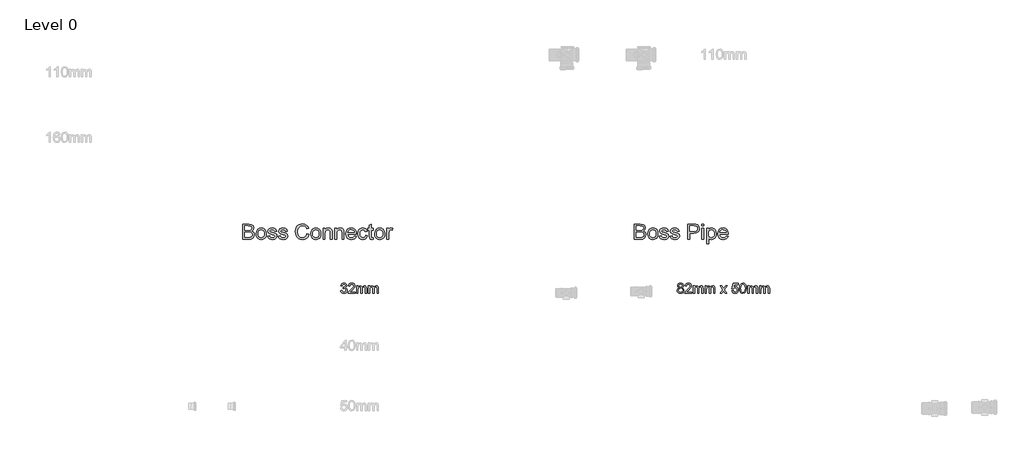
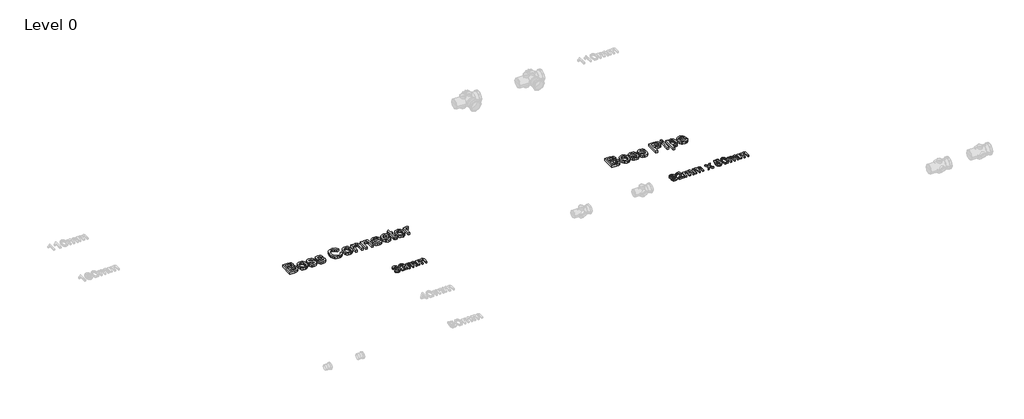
# One storey, part 8 of 23: 4 proxies.
"""IFC4 building model written with IfcOpenShell, lengths in millimetres."""

from ifc_helpers import new_model, si_unit, origin, origin_with_axes, place, context, project, spatial, polyline, outline, extrude, element, save

model = new_model("IFC4")

# Units and contexts
model_context = context("Model", 3, world=origin())
ifc_project = project(units=[si_unit("LENGTHUNIT", "METRE", prefix="MILLI")], contexts=[model_context])

# Site, building, storey
site = spatial("IfcSite", under=ifc_project)
building = spatial("IfcBuilding", under=site)
storey = spatial("IfcBuildingStorey", under=building, Name="Level 0", Elevation=0.0)

# Proxies
placement = place(None, origin())
element("IfcBuildingElementProxy", 1, Name="100mm Arial", ObjectType="100mm Arial", at=placement, inside=storey, context=model_context, shape_type="SweptSolid", body=[
    extrude(outline(polyline([(-20800.1908572, 6012.804251), (-20787.8831649, 6014.3427125), (-20781.0922995, 6001.3859817), (-20768.3879726, 5997.4196356), (-20759.9504726, 5998.7838183), (-20753.4360495, 6002.8763663), (-20747.8831649, 6016.3859817), (-20753.3879726, 6029.1143471), (-20767.3783572, 6034.1504048), (-20776.0081649, 6032.804251), (-20774.6379726, 6045.1119433), (-20772.6668188, 6044.9677125), (-20758.7004726, 6048.5013663), (-20754.0490303, 6052.9845394), (-20752.4985495, 6059.366751), (-20756.9937418, 6068.9941548), (-20768.5802803, 6072.804251), (-20780.3110495, 6068.9580971), (-20786.3447034, 6057.4196356), (-20798.6523957, 6058.9580971), (-20795.0285976, 6070.0097798), (-20788.5802803, 6078.2609817), (-20779.7581649, 6083.3992029), (-20769.0129726, 6085.1119433), (-20754.1692226, 6081.7345394), (-20743.7846072, 6072.5037702), (-20740.1908572, 6060.0879048), (-20743.6043188, 6048.741751), (-20753.7004726, 6040.5927125), (-20740.2870111, 6032.179251), (-20735.5754726, 6016.1696356), (-20737.9312418, 6004.1744433), (-20744.9985495, 5994.1504048), (-20755.6656168, 5987.3715587), (-20768.8206649, 5985.1119433), (-20780.7197034, 5987.0410298), (-20790.4072034, 5992.8282894), (-20797.1439822, 6001.6804529), (-20800.1908572, 6012.804251)])), origin_with_axes(), (0.0, 0.0, 1.0), 15.0),
    extrude(outline(polyline([(-20661.7293188, 5998.9580971), (-20661.7293188, 5986.6504048), (-20726.3447034, 5986.6504048), (-20725.022588, 5995.1359817), (-20717.5466264, 6008.2008856), (-20702.1379726, 6022.4677125), (-20680.8879726, 6042.9725202), (-20675.5754726, 6056.9148279), (-20680.5874918, 6068.2008856), (-20693.6764341, 6072.804251), (-20707.3182611, 6068.3090587), (-20712.4985495, 6055.881174), (-20724.8062418, 6057.4196356), (-20721.8224678, 6069.3246837), (-20715.3711457, 6078.0205971), (-20705.7888139, 6083.3391067), (-20693.4120111, 6085.1119433), (-20680.9450639, 6083.1407894), (-20671.3807611, 6077.2273279), (-20665.2960255, 6068.3931933), (-20663.2677803, 6057.6600202), (-20665.4552803, 6045.9893471), (-20672.7269149, 6033.9220394), (-20690.3591264, 6017.0590587), (-20704.5177803, 6005.2201163), (-20710.0706649, 5998.9580971), (-20661.7293188, 5998.9580971)])), origin_with_axes(), (0.0, 0.0, 1.0), 15.0),
    extrude(outline(polyline([(-20646.3447034, 5986.6504048), (-20646.3447034, 6058.9580971), (-20634.0370111, 6058.9580971), (-20634.0370111, 6047.0590587), (-20625.5754726, 6056.8066548), (-20613.5322034, 6060.4965587), (-20601.2004726, 6056.7345394), (-20594.4216264, 6046.193674), (-20584.8182611, 6056.9208375), (-20572.6908572, 6060.4965587), (-20563.4390543, 6059.0091788), (-20556.5971072, 6054.5470394), (-20552.3693428, 6046.9899481), (-20550.960088, 6036.2177125), (-20550.960088, 5986.6504048), (-20563.2677803, 5986.6504048), (-20563.2677803, 6030.929251), (-20564.4096072, 6041.2056933), (-20568.5442226, 6046.2657894), (-20575.5754726, 6048.1888663), (-20587.678838, 6043.2609817), (-20592.4985495, 6027.4677125), (-20592.4985495, 5986.6504048), (-20604.8062418, 5986.6504048), (-20604.8062418, 6032.2994433), (-20607.6547995, 6044.2225202), (-20616.9937418, 6048.1888663), (-20626.1043188, 6045.5446356), (-20632.1620111, 6037.804251), (-20634.0370111, 6023.116751), (-20634.0370111, 5986.6504048), (-20646.3447034, 5986.6504048)])), origin_with_axes(), (0.0, 0.0, 1.0), 15.0),
    extrude(outline(polyline([(-20532.4985495, 5986.6504048), (-20532.4985495, 6058.9580971), (-20520.1908572, 6058.9580971), (-20520.1908572, 6047.0590587), (-20511.7293188, 6056.8066548), (-20499.6860495, 6060.4965587), (-20487.3543188, 6056.7345394), (-20480.5754726, 6046.193674), (-20470.9721072, 6056.9208375), (-20458.8447034, 6060.4965587), (-20449.5929005, 6059.0091788), (-20442.7509534, 6054.5470394), (-20438.5231889, 6046.9899481), (-20437.1139341, 6036.2177125), (-20437.1139341, 5986.6504048), (-20449.4216264, 5986.6504048), (-20449.4216264, 6030.929251), (-20450.5634534, 6041.2056933), (-20454.6980688, 6046.2657894), (-20461.7293188, 6048.1888663), (-20473.8326841, 6043.2609817), (-20478.6523957, 6027.4677125), (-20478.6523957, 5986.6504048), (-20490.960088, 5986.6504048), (-20490.960088, 6032.2994433), (-20493.8086457, 6044.2225202), (-20503.147588, 6048.1888663), (-20512.2581649, 6045.5446356), (-20518.3158572, 6037.804251), (-20520.1908572, 6023.116751), (-20520.1908572, 5986.6504048), (-20532.4985495, 5986.6504048)])), origin_with_axes(), (0.0, 0.0, 1.0), 15.0),
])
element("IfcBuildingElementProxy", 2, Name="100mm Arial", ObjectType="100mm Arial", at=placement, inside=storey, context=model_context, shape_type="SweptSolid", body=[
    extrude(outline(polyline([(-17544.5658572, 6040.881174), (-17555.7797995, 6048.5254048), (-17559.4216264, 6060.4244433), (-17557.4384534, 6070.0458375), (-17551.4889341, 6077.9965587), (-17542.2401361, 6083.3330971), (-17530.3591264, 6085.1119433), (-17518.4060014, 6083.2910298), (-17509.0370111, 6077.8282894), (-17502.9793188, 6069.7513663), (-17500.960088, 6060.0879048), (-17504.553838, 6048.4893471), (-17515.4552803, 6040.881174), (-17502.366338, 6031.2297317), (-17497.8831649, 6015.304251), (-17500.1067226, 6003.537424), (-17506.7773957, 5993.8138663), (-17517.0778764, 5987.287424), (-17530.1908572, 5985.1119433), (-17543.303838, 5987.2964385), (-17553.6043188, 5993.849924), (-17560.2749918, 6003.6666308), (-17562.4985495, 6015.6407894), (-17557.835088, 6031.9388663), (-17544.5658572, 6040.881174)]), holes=[polyline([(-17547.1139341, 6060.0638663), (-17542.7509534, 6050.4004048), (-17530.0466264, 6046.6504048), (-17517.5947034, 6050.3763663), (-17513.2677803, 6059.5109817), (-17517.7389341, 6068.9701163), (-17530.1908572, 6072.804251), (-17542.678838, 6069.054251), (-17547.1139341, 6060.0638663)]), polyline([(-17550.1908572, 6016.0734817), (-17548.1355688, 6006.8066548), (-17540.8639341, 5999.8715587), (-17530.0947034, 5997.4196356), (-17515.4312418, 6002.5758856), (-17510.1908572, 6015.6888663), (-17515.5995111, 6029.054251), (-17522.0297995, 6033.0205971), (-17530.5033572, 6034.3427125), (-17544.9865303, 6029.1263663), (-17550.1908572, 6016.0734817)])]), origin_with_axes(), (0.0, 0.0, 1.0), 15.0),
    extrude(outline(polyline([(-17424.0370111, 5998.9580971), (-17424.0370111, 5986.6504048), (-17488.6523957, 5986.6504048), (-17487.3302803, 5995.1359817), (-17479.8543188, 6008.2008856), (-17464.4456649, 6022.4677125), (-17443.1956649, 6042.9725202), (-17437.8831649, 6056.9148279), (-17442.8951841, 6068.2008856), (-17455.9841264, 6072.804251), (-17469.6259534, 6068.3090587), (-17474.8062418, 6055.881174), (-17487.1139341, 6057.4196356), (-17484.1301601, 6069.3246837), (-17477.678838, 6078.0205971), (-17468.0965063, 6083.3391067), (-17455.7197034, 6085.1119433), (-17443.2527563, 6083.1407894), (-17433.6884534, 6077.2273279), (-17427.6037178, 6068.3931933), (-17425.5754726, 6057.6600202), (-17427.7629726, 6045.9893471), (-17435.0346072, 6033.9220394), (-17452.6668188, 6017.0590587), (-17466.8254726, 6005.2201163), (-17472.3783572, 5998.9580971), (-17424.0370111, 5998.9580971)])), origin_with_axes(), (0.0, 0.0, 1.0), 15.0),
    extrude(outline(polyline([(-17408.6523957, 5986.6504048), (-17408.6523957, 6058.9580971), (-17396.3447034, 6058.9580971), (-17396.3447034, 6047.0590587), (-17387.8831649, 6056.8066548), (-17375.8398957, 6060.4965587), (-17363.5081649, 6056.7345394), (-17356.7293188, 6046.193674), (-17347.1259534, 6056.9208375), (-17334.9985495, 6060.4965587), (-17325.7467466, 6059.0091788), (-17318.9047995, 6054.5470394), (-17314.6770351, 6046.9899481), (-17313.2677803, 6036.2177125), (-17313.2677803, 5986.6504048), (-17325.5754726, 5986.6504048), (-17325.5754726, 6030.929251), (-17326.7172995, 6041.2056933), (-17330.8519149, 6046.2657894), (-17337.8831649, 6048.1888663), (-17349.9865303, 6043.2609817), (-17354.8062418, 6027.4677125), (-17354.8062418, 5986.6504048), (-17367.1139341, 5986.6504048), (-17367.1139341, 6032.2994433), (-17369.9624918, 6044.2225202), (-17379.3014341, 6048.1888663), (-17388.4120111, 6045.5446356), (-17394.4697034, 6037.804251), (-17396.3447034, 6023.116751), (-17396.3447034, 5986.6504048), (-17408.6523957, 5986.6504048)])), origin_with_axes(), (0.0, 0.0, 1.0), 15.0),
    extrude(outline(polyline([(-17294.8062418, 5986.6504048), (-17294.8062418, 6058.9580971), (-17282.4985495, 6058.9580971), (-17282.4985495, 6047.0590587), (-17274.0370111, 6056.8066548), (-17261.9937418, 6060.4965587), (-17249.6620111, 6056.7345394), (-17242.8831649, 6046.193674), (-17233.2797995, 6056.9208375), (-17221.1523957, 6060.4965587), (-17211.9005928, 6059.0091788), (-17205.0586457, 6054.5470394), (-17200.8308813, 6046.9899481), (-17199.4216264, 6036.2177125), (-17199.4216264, 5986.6504048), (-17211.7293188, 5986.6504048), (-17211.7293188, 6030.929251), (-17212.8711457, 6041.2056933), (-17217.0057611, 6046.2657894), (-17224.0370111, 6048.1888663), (-17236.1403764, 6043.2609817), (-17240.960088, 6027.4677125), (-17240.960088, 5986.6504048), (-17253.2677803, 5986.6504048), (-17253.2677803, 6032.2994433), (-17256.116338, 6044.2225202), (-17265.4552803, 6048.1888663), (-17274.5658572, 6045.5446356), (-17280.6235495, 6037.804251), (-17282.4985495, 6023.116751), (-17282.4985495, 5986.6504048), (-17294.8062418, 5986.6504048)])), origin_with_axes(), (0.0, 0.0, 1.0), 15.0),
    extrude(outline(polyline([(-17150.1908572, 5986.6504048), (-17123.8927803, 6022.9965587), (-17148.6523957, 6058.9580971), (-17133.8447034, 6058.9580971), (-17121.897588, 6041.6504048), (-17116.3206649, 6033.4773279), (-17111.4889341, 6040.1600202), (-17097.8831649, 6058.9580971), (-17083.0754726, 6058.9580971), (-17109.085088, 6022.9965587), (-17084.0370111, 5986.6504048), (-17098.8447034, 5986.6504048), (-17113.9168188, 6008.5013663), (-17116.6812418, 6012.491751), (-17135.3831649, 5986.6504048), (-17150.1908572, 5986.6504048)])), origin_with_axes(), (0.0, 0.0, 1.0), 15.0),
    extrude(outline(polyline([(-17037.8831649, 6012.804251), (-17025.5754726, 6014.3427125), (-17019.3735495, 6001.662424), (-17006.5129726, 5997.4196356), (-16997.6908572, 5998.8949962), (-16991.0802803, 6003.3210779), (-16986.9516745, 6010.1870635), (-16985.5754726, 6018.9821356), (-16990.7317226, 6033.5975202), (-16997.2070832, 6037.6179529), (-17006.3206649, 6038.9580971), (-17017.1259534, 6036.818674), (-17024.0370111, 6031.2657894), (-17036.3447034, 6032.804251), (-17025.5754726, 6083.5734817), (-16977.8831649, 6083.5734817), (-16977.8831649, 6071.2657894), (-17015.6235495, 6071.2657894), (-17020.8879726, 6044.1504048), (-17012.0959053, 6049.4869433), (-17002.8831649, 6051.2657894), (-16991.3837659, 6049.0602606), (-16981.8374918, 6042.443674), (-16975.4102082, 6032.3595394), (-16973.2677803, 6019.7513663), (-16975.1968668, 6007.443674), (-16980.9841264, 5996.9148279), (-16992.0658572, 5988.0626644), (-17006.5610495, 5985.1119433), (-17018.6493909, 5987.0079769), (-17028.2797995, 5992.6960779), (-17034.881362, 6001.5151885), (-17037.8831649, 6012.804251)])), origin_with_axes(), (0.0, 0.0, 1.0), 15.0),
    extrude(outline(polyline([(-16962.4985495, 6035.0879048), (-16958.8807611, 6063.4172317), (-16948.1355688, 6079.7513663), (-16930.1908572, 6085.1119433), (-16915.8158572, 6081.9388663), (-16905.8879726, 6072.7922317), (-16900.1187418, 6058.224924), (-16897.8831649, 6035.0879048), (-16901.4648957, 6006.8787702), (-16912.1740303, 5990.5085779), (-16930.1908572, 5985.1119433), (-16942.9793188, 5987.4556933), (-16952.6908572, 5994.4869433), (-16960.0466264, 6011.1395875), (-16962.4985495, 6035.0879048)]), holes=[polyline([(-16950.1908572, 6035.1119433), (-16948.7485495, 6015.7519673), (-16944.4216264, 6004.5470394), (-16937.9793188, 5999.2014865), (-16930.1908572, 5997.4196356), (-16922.4023957, 5999.2074962), (-16915.960088, 6004.5710779), (-16911.6331649, 6015.7820154), (-16910.1908572, 6035.1119433), (-16911.585088, 6054.0362221), (-16915.7677803, 6065.3282894), (-16922.1980688, 6070.9352606), (-16930.335088, 6072.804251), (-16938.0394149, 6071.1576163), (-16944.2293188, 6066.2177125), (-16948.7004726, 6054.2225202), (-16950.1908572, 6035.1119433)])]), origin_with_axes(), (0.0, 0.0, 1.0), 15.0),
    extrude(outline(polyline([(-16884.0370111, 5986.6504048), (-16884.0370111, 6058.9580971), (-16871.7293188, 6058.9580971), (-16871.7293188, 6047.0590587), (-16863.2677803, 6056.8066548), (-16851.2245111, 6060.4965587), (-16838.8927803, 6056.7345394), (-16832.1139341, 6046.193674), (-16822.5105688, 6056.9208375), (-16810.3831649, 6060.4965587), (-16801.131362, 6059.0091788), (-16794.2894149, 6054.5470394), (-16790.0616505, 6046.9899481), (-16788.6523957, 6036.2177125), (-16788.6523957, 5986.6504048), (-16800.960088, 5986.6504048), (-16800.960088, 6030.929251), (-16802.1019149, 6041.2056933), (-16806.2365303, 6046.2657894), (-16813.2677803, 6048.1888663), (-16825.3711457, 6043.2609817), (-16830.1908572, 6027.4677125), (-16830.1908572, 5986.6504048), (-16842.4985495, 5986.6504048), (-16842.4985495, 6032.2994433), (-16845.3471072, 6044.2225202), (-16854.6860495, 6048.1888663), (-16863.7966264, 6045.5446356), (-16869.8543188, 6037.804251), (-16871.7293188, 6023.116751), (-16871.7293188, 5986.6504048), (-16884.0370111, 5986.6504048)])), origin_with_axes(), (0.0, 0.0, 1.0), 15.0),
    extrude(outline(polyline([(-16770.1908572, 5986.6504048), (-16770.1908572, 6058.9580971), (-16757.8831649, 6058.9580971), (-16757.8831649, 6047.0590587), (-16749.4216264, 6056.8066548), (-16737.3783572, 6060.4965587), (-16725.0466264, 6056.7345394), (-16718.2677803, 6046.193674), (-16708.6644149, 6056.9208375), (-16696.5370111, 6060.4965587), (-16687.2852082, 6059.0091788), (-16680.4432611, 6054.5470394), (-16676.2154966, 6046.9899481), (-16674.8062418, 6036.2177125), (-16674.8062418, 5986.6504048), (-16687.1139341, 5986.6504048), (-16687.1139341, 6030.929251), (-16688.2557611, 6041.2056933), (-16692.3903764, 6046.2657894), (-16699.4216264, 6048.1888663), (-16711.5249918, 6043.2609817), (-16716.3447034, 6027.4677125), (-16716.3447034, 5986.6504048), (-16728.6523957, 5986.6504048), (-16728.6523957, 6032.2994433), (-16731.5009534, 6044.2225202), (-16740.8398957, 6048.1888663), (-16749.9504726, 6045.5446356), (-16756.0081649, 6037.804251), (-16757.8831649, 6023.116751), (-16757.8831649, 5986.6504048), (-16770.1908572, 5986.6504048)])), origin_with_axes(), (0.0, 0.0, 1.0), 15.0),
])
element("IfcBuildingElementProxy", 3, Name="150mm Arial", ObjectType="150mm Arial", at=placement, inside=storey, context=model_context, shape_type="SweptSolid", body=[
    extrude(outline(polyline([(-21742.1433743, 6505.2145219), (-21742.1433743, 6652.9068296), (-21685.7852012, 6652.9068296), (-21658.1830377, 6648.5618777), (-21648.9071964, 6643.049558), (-21641.8849608, 6635.2025027), (-21635.9895281, 6616.3082719), (-21640.9474608, 6599.0546661), (-21655.929432, 6585.9837527), (-21645.468194, 6580.5210123), (-21637.7383262, 6572.2097142), (-21632.9651892, 6561.5997383), (-21631.3741435, 6549.2409642), (-21635.7190954, 6529.3912046), (-21646.4823166, 6515.2565892), (-21662.5460185, 6507.7565892), (-21686.2178935, 6505.2145219), (-21742.1433743, 6505.2145219)]), holes=[polyline([(-21723.6818358, 6523.6760604), (-21685.8212589, 6523.6760604), (-21672.1193358, 6524.3972142), (-21660.5267877, 6528.4176469), (-21652.8464993, 6536.6207719), (-21649.835682, 6549.0606758), (-21653.3693358, 6563.4116373), (-21664.8176531, 6571.9753392), (-21687.6241435, 6574.4452911), (-21723.6818358, 6574.4452911), (-21723.6818358, 6523.6760604)]), polyline([(-21723.6818358, 6592.9068296), (-21689.9678935, 6592.9068296), (-21670.2803935, 6594.4933681), (-21658.4354416, 6601.3263008), (-21654.4510666, 6613.3515411), (-21658.1650089, 6625.3948104), (-21668.8020281, 6632.5162046), (-21692.5279897, 6634.4452911), (-21723.6818358, 6634.4452911), (-21723.6818358, 6592.9068296)])]), origin_with_axes(), (0.0, 0.0, 1.0), 25.0),
    extrude(outline(polyline([(-21612.912605, 6559.4452911), (-21608.9192156, 6585.5961325), (-21596.9390473, 6603.9765411), (-21582.1373647, 6612.9819498), (-21564.4150089, 6615.9837527), (-21545.0204776, 6612.3284041), (-21529.5291916, 6601.3623585), (-21519.374444, 6583.9510003), (-21515.9895281, 6560.9597142), (-21517.4859223, 6542.3088729), (-21521.975105, 6528.1111565), (-21529.3263671, 6517.4786445), (-21539.4089993, 6509.5234161), (-21551.3846603, 6504.5609762), (-21564.4150089, 6502.9068296), (-21584.0439151, 6506.5486565), (-21599.5171723, 6517.4741373), (-21609.5637469, 6535.2505796), (-21612.912605, 6559.4452911)]), holes=[polyline([(-21594.4510666, 6559.4813488), (-21592.3146483, 6542.7731157), (-21585.9053935, 6530.86957), (-21576.2599608, 6523.7436686), (-21564.4150089, 6521.3683681), (-21552.6241435, 6523.7571902), (-21542.9967397, 6530.9236565), (-21536.5874848, 6542.9849546), (-21534.4510666, 6560.0582719), (-21536.6010065, 6576.2797262), (-21543.0508262, 6588.0210123), (-21552.6917517, 6595.1469137), (-21564.4150089, 6597.5222142), (-21576.2599608, 6595.1559282), (-21585.9053935, 6588.05707), (-21592.3146483, 6576.1805676), (-21594.4510666, 6559.4813488)])]), origin_with_axes(), (0.0, 0.0, 1.0), 25.0),
    extrude(outline(polyline([(-21502.1433743, 6537.5222142), (-21483.6818358, 6539.8299065), (-21480.7701772, 6531.9332719), (-21475.1361627, 6526.1279835), (-21455.5568358, 6521.3683681), (-21436.7347204, 6525.7313488), (-21430.6049127, 6535.9717335), (-21436.7707781, 6544.2650027), (-21455.773182, 6549.5294258), (-21483.5736627, 6558.5618777), (-21495.7070762, 6569.1087527), (-21499.835682, 6584.0005796), (-21496.5183743, 6597.7565892), (-21487.4678935, 6608.2674065), (-21475.7311147, 6613.7301469), (-21459.8477012, 6615.9837527), (-21437.3837589, 6612.3599546), (-21423.1049127, 6602.5522623), (-21416.7587589, 6585.9837527), (-21435.2202973, 6583.6760604), (-21442.1614031, 6593.8623585), (-21458.4053935, 6597.5222142), (-21476.0736627, 6594.0246181), (-21481.3741435, 6585.8755796), (-21479.1746243, 6580.5029835), (-21472.287605, 6576.4284642), (-21456.3861627, 6572.4981758), (-21429.288807, 6563.8082719), (-21416.7046723, 6553.9645219), (-21412.1433743, 6537.9188488), (-21417.4979416, 6520.2505796), (-21432.9486627, 6507.43207), (-21455.8092397, 6502.9068296), (-21474.4240233, 6505.08832), (-21488.0087589, 6511.6327911), (-21497.0772685, 6522.4681277), (-21502.1433743, 6537.5222142)])), origin_with_axes(), (0.0, 0.0, 1.0), 25.0),
    extrude(outline(polyline([(-21398.2972204, 6537.5222142), (-21379.835682, 6539.8299065), (-21376.9240233, 6531.9332719), (-21371.2900089, 6526.1279835), (-21351.710682, 6521.3683681), (-21332.8885666, 6525.7313488), (-21326.7587589, 6535.9717335), (-21332.9246243, 6544.2650027), (-21351.9270281, 6549.5294258), (-21379.7275089, 6558.5618777), (-21391.8609223, 6569.1087527), (-21395.9895281, 6584.0005796), (-21392.6722204, 6597.7565892), (-21383.6217397, 6608.2674065), (-21371.8849608, 6613.7301469), (-21356.0015473, 6615.9837527), (-21333.537605, 6612.3599546), (-21319.2587589, 6602.5522623), (-21312.912605, 6585.9837527), (-21331.3741435, 6583.6760604), (-21338.3152493, 6593.8623585), (-21354.5592397, 6597.5222142), (-21372.2275089, 6594.0246181), (-21377.5279897, 6585.8755796), (-21375.3284704, 6580.5029835), (-21368.4414512, 6576.4284642), (-21352.5400089, 6572.4981758), (-21325.4426531, 6563.8082719), (-21312.8585185, 6553.9645219), (-21308.2972204, 6537.9188488), (-21313.6517877, 6520.2505796), (-21329.1025089, 6507.43207), (-21351.9630858, 6502.9068296), (-21370.5778695, 6505.08832), (-21384.162605, 6511.6327911), (-21393.2311147, 6522.4681277), (-21398.2972204, 6537.5222142)])), origin_with_axes(), (0.0, 0.0, 1.0), 25.0),
    extrude(outline(polyline([(-21123.6818358, 6557.7145219), (-21105.2202973, 6552.9549065), (-21113.7389272, 6531.4419859), (-21127.1073166, 6515.7253392), (-21144.6674127, 6506.111457), (-21165.7611627, 6502.9068296), (-21187.1749247, 6505.3317094), (-21204.1806339, 6512.6063488), (-21217.2154897, 6524.478344), (-21226.7166916, 6540.6952911), (-21232.5174728, 6559.760796), (-21234.4510666, 6580.1784642), (-21232.265069, 6601.713921), (-21225.7070762, 6620.3106758), (-21215.1196363, 6635.3782839), (-21200.8452973, 6646.3263008), (-21183.9162108, 6652.9924666), (-21165.3645281, 6655.2145219), (-21145.1226411, 6652.338921), (-21128.3873647, 6643.7121181), (-21115.6815353, 6629.8659642), (-21107.5279897, 6611.3323104), (-21125.9895281, 6606.9332719), (-21132.3897685, 6620.3963128), (-21141.1337589, 6629.6315892), (-21152.3296723, 6634.9726349), (-21166.085682, 6636.7529835), (-21181.9420522, 6634.7788248), (-21194.9678935, 6628.8563488), (-21204.8522084, 6619.6075508), (-21211.2839993, 6607.6544258), (-21215.9895281, 6580.2145219), (-21210.4186147, 6548.4116373), (-21203.2972204, 6536.5351349), (-21193.0748647, 6528.0931277), (-21180.8197565, 6523.049558), (-21167.600105, 6521.3683681), (-21152.1899488, 6523.6580315), (-21139.3489031, 6530.5270219), (-21129.6538911, 6541.9032238), (-21123.6818358, 6557.7145219)])), origin_with_axes(), (0.0, 0.0, 1.0), 25.0),
    extrude(outline(polyline([(-21086.7587589, 6559.4452911), (-21082.7653695, 6585.5961325), (-21070.7852012, 6603.9765411), (-21055.9835185, 6612.9819498), (-21038.2611627, 6615.9837527), (-21018.8666315, 6612.3284041), (-21003.3753454, 6601.3623585), (-20993.2205978, 6583.9510003), (-20989.835682, 6560.9597142), (-20991.3320762, 6542.3088729), (-20995.8212589, 6528.1111565), (-21003.1725209, 6517.4786445), (-21013.2551531, 6509.5234161), (-21025.2308142, 6504.5609762), (-21038.2611627, 6502.9068296), (-21057.890069, 6506.5486565), (-21073.3633262, 6517.4741373), (-21083.4099007, 6535.2505796), (-21086.7587589, 6559.4452911)]), holes=[polyline([(-21068.2972204, 6559.4813488), (-21066.1608022, 6542.7731157), (-21059.7515473, 6530.86957), (-21050.1061147, 6523.7436686), (-21038.2611627, 6521.3683681), (-21026.4702973, 6523.7571902), (-21016.8428935, 6530.9236565), (-21010.4336387, 6542.9849546), (-21008.2972204, 6560.0582719), (-21010.4471603, 6576.2797262), (-21016.89698, 6588.0210123), (-21026.5379055, 6595.1469137), (-21038.2611627, 6597.5222142), (-21050.1061147, 6595.1559282), (-21059.7515473, 6588.05707), (-21066.1608022, 6576.1805676), (-21068.2972204, 6559.4813488)])]), origin_with_axes(), (0.0, 0.0, 1.0), 25.0),
    extrude(outline(polyline([(-20969.0664512, 6505.2145219), (-20969.0664512, 6613.6760604), (-20950.6049127, 6613.6760604), (-20950.6049127, 6598.5318296), (-20936.4883262, 6611.6207719), (-20917.2154897, 6615.9837527), (-20899.7815954, 6612.4681277), (-20887.882557, 6603.2373585), (-20882.3477012, 6589.6616373), (-20881.3741435, 6571.8130796), (-20881.3741435, 6505.2145219), (-20899.835682, 6505.2145219), (-20899.835682, 6569.3250988), (-20901.9630858, 6585.6592335), (-20909.4811147, 6594.2950508), (-20922.1553935, 6597.5222142), (-20932.968194, 6595.7103152), (-20942.1854416, 6590.2746181), (-20948.5000449, 6579.7728152), (-20950.6049127, 6562.7625988), (-20950.6049127, 6505.2145219), (-20969.0664512, 6505.2145219)])), origin_with_axes(), (0.0, 0.0, 1.0), 25.0),
    extrude(outline(polyline([(-20855.9895281, 6505.2145219), (-20855.9895281, 6613.6760604), (-20837.5279897, 6613.6760604), (-20837.5279897, 6598.5318296), (-20823.4114031, 6611.6207719), (-20804.1385666, 6615.9837527), (-20786.7046723, 6612.4681277), (-20774.8056339, 6603.2373585), (-20769.2707781, 6589.6616373), (-20768.2972204, 6571.8130796), (-20768.2972204, 6505.2145219), (-20786.7587589, 6505.2145219), (-20786.7587589, 6569.3250988), (-20788.8861627, 6585.6592335), (-20796.4041916, 6594.2950508), (-20809.0784704, 6597.5222142), (-20819.8912709, 6595.7103152), (-20829.1085185, 6590.2746181), (-20835.4231219, 6579.7728152), (-20837.5279897, 6562.7625988), (-20837.5279897, 6505.2145219), (-20855.9895281, 6505.2145219)])), origin_with_axes(), (0.0, 0.0, 1.0), 25.0),
    extrude(outline(polyline([(-20666.975105, 6537.5222142), (-20648.8741435, 6535.2145219), (-20655.3960786, 6521.5756998), (-20665.80323, 6511.3803873), (-20679.8612228, 6505.025219), (-20697.335682, 6502.9068296), (-20718.9973406, 6506.5621782), (-20735.6650089, 6517.5282238), (-20746.2930137, 6535.0928272), (-20749.835682, 6558.5438488), (-20746.256956, 6582.7836325), (-20735.5207781, 6600.9116373), (-20719.0784704, 6612.2157238), (-20698.381355, 6615.9837527), (-20678.3287709, 6612.2247383), (-20662.3056339, 6600.947695), (-20651.7993238, 6582.8557479), (-20648.2972204, 6558.6520219), (-20648.4053935, 6553.6760604), (-20731.3741435, 6553.6760604), (-20728.1785305, 6539.8569498), (-20720.7551531, 6529.697695), (-20710.0415113, 6523.4506998), (-20696.975105, 6521.3683681), (-20678.8741435, 6525.2265411), (-20666.975105, 6537.5222142)]), holes=[polyline([(-20731.3741435, 6572.1375988), (-20666.7587589, 6572.1375988), (-20669.2557541, 6581.8912046), (-20674.1505858, 6588.8683681), (-20684.913807, 6595.3587527), (-20698.4534704, 6597.5222142), (-20710.8978815, 6595.7959522), (-20721.1878454, 6590.6171661), (-20728.3407901, 6582.5447503), (-20731.3741435, 6572.1375988)])]), origin_with_axes(), (0.0, 0.0, 1.0), 25.0),
    extrude(outline(polyline([(-20560.6049127, 6544.4452911), (-20542.1433743, 6542.1375988), (-20547.2906098, 6525.7178272), (-20556.9630858, 6513.3094738), (-20570.2503454, 6505.5074907), (-20586.241932, 6502.9068296), (-20605.8798526, 6506.5351349), (-20621.2359223, 6517.4200508), (-20631.1472805, 6535.0838128), (-20634.4510666, 6559.0486565), (-20628.8080377, 6589.7157238), (-20621.6866435, 6601.2136205), (-20611.6085185, 6609.4212527), (-20599.5517276, 6614.3431277), (-20586.4943358, 6615.9837527), (-20570.8948767, 6613.7301469), (-20558.4234223, 6606.9693296), (-20549.4766074, 6596.0618777), (-20544.4510666, 6581.3683681), (-20562.912605, 6579.0606758), (-20571.476307, 6592.8888008), (-20586.350105, 6597.5222142), (-20598.280694, 6595.2415652), (-20607.7503454, 6588.3996181), (-20613.9297324, 6576.6267815), (-20615.9895281, 6559.5534642), (-20613.9748046, 6542.2502791), (-20607.9306339, 6530.4368777), (-20598.6322565, 6523.6354955), (-20586.8549127, 6521.3683681), (-20577.2951171, 6522.7836325), (-20569.4570762, 6527.0294258), (-20563.7554536, 6534.213921), (-20560.6049127, 6544.4452911)])), origin_with_axes(), (0.0, 0.0, 1.0), 25.0),
    extrude(outline(polyline([(-20486.7587589, 6520.6111565), (-20484.4510666, 6504.6736565), (-20498.2611627, 6502.9068296), (-20513.7299127, 6505.9717335), (-20521.4462589, 6514.0125988), (-20523.6818358, 6534.9621181), (-20523.6818358, 6595.2145219), (-20537.5279897, 6595.2145219), (-20537.5279897, 6613.6760604), (-20523.6818358, 6613.6760604), (-20523.6818358, 6640.0342335), (-20505.2202973, 6650.8875988), (-20505.2202973, 6613.6760604), (-20486.7587589, 6613.6760604), (-20486.7587589, 6595.2145219), (-20505.2202973, 6595.2145219), (-20505.2202973, 6535.5029835), (-20504.2467397, 6525.9837527), (-20501.0916916, 6522.6123585), (-20494.7996243, 6521.3683681), (-20486.7587589, 6520.6111565)])), origin_with_axes(), (0.0, 0.0, 1.0), 25.0),
    extrude(outline(polyline([(-20472.912605, 6559.4452911), (-20468.9192156, 6585.5961325), (-20456.9390473, 6603.9765411), (-20442.1373647, 6612.9819498), (-20424.4150089, 6615.9837527), (-20405.0204776, 6612.3284041), (-20389.5291916, 6601.3623585), (-20379.374444, 6583.9510003), (-20375.9895281, 6560.9597142), (-20377.4859223, 6542.3088729), (-20381.975105, 6528.1111565), (-20389.3263671, 6517.4786445), (-20399.4089993, 6509.5234161), (-20411.3846603, 6504.5609762), (-20424.4150089, 6502.9068296), (-20444.0439151, 6506.5486565), (-20459.5171723, 6517.4741373), (-20469.5637469, 6535.2505796), (-20472.912605, 6559.4452911)]), holes=[polyline([(-20454.4510666, 6559.4813488), (-20452.3146483, 6542.7731157), (-20445.9053935, 6530.86957), (-20436.2599608, 6523.7436686), (-20424.4150089, 6521.3683681), (-20412.6241435, 6523.7571902), (-20402.9967397, 6530.9236565), (-20396.5874848, 6542.9849546), (-20394.4510666, 6560.0582719), (-20396.6010065, 6576.2797262), (-20403.0508262, 6588.0210123), (-20412.6917517, 6595.1469137), (-20424.4150089, 6597.5222142), (-20436.2599608, 6595.1559282), (-20445.9053935, 6588.05707), (-20452.3146483, 6576.1805676), (-20454.4510666, 6559.4813488)])]), origin_with_axes(), (0.0, 0.0, 1.0), 25.0),
    extrude(outline(polyline([(-20355.2202973, 6505.2145219), (-20355.2202973, 6613.6760604), (-20339.0664512, 6613.6760604), (-20339.0664512, 6597.6303873), (-20327.600105, 6612.4140411), (-20316.0616435, 6615.9837527), (-20297.5279897, 6610.2866373), (-20303.693855, 6593.7361565), (-20316.6746243, 6597.5222142), (-20327.1133262, 6593.8803873), (-20333.7659704, 6583.7842335), (-20336.7587589, 6562.2217335), (-20336.7587589, 6505.2145219), (-20355.2202973, 6505.2145219)])), origin_with_axes(), (0.0, 0.0, 1.0), 25.0),
])
element("IfcBuildingElementProxy", 4, Name="150mm Arial", ObjectType="150mm Arial", at=placement, inside=storey, context=model_context, shape_type="SweptSolid", body=[
    extrude(outline(polyline([(-17974.4510666, 6505.2145219), (-17974.4510666, 6652.9068296), (-17918.0928935, 6652.9068296), (-17890.49073, 6648.5618777), (-17881.2148887, 6643.049558), (-17874.1926531, 6635.2025027), (-17868.2972204, 6616.3082719), (-17873.2551531, 6599.0546661), (-17888.2371243, 6585.9837527), (-17877.7758863, 6580.5210123), (-17870.0460185, 6572.2097142), (-17865.2728815, 6561.5997383), (-17863.6818358, 6549.2409642), (-17868.0267877, 6529.3912046), (-17878.7900089, 6515.2565892), (-17894.8537108, 6507.7565892), (-17918.5255858, 6505.2145219), (-17974.4510666, 6505.2145219)]), holes=[polyline([(-17955.9895281, 6523.6760604), (-17918.1289512, 6523.6760604), (-17904.4270281, 6524.3972142), (-17892.83448, 6528.4176469), (-17885.1541916, 6536.6207719), (-17882.1433743, 6549.0606758), (-17885.6770281, 6563.4116373), (-17897.1253454, 6571.9753392), (-17919.9318358, 6574.4452911), (-17955.9895281, 6574.4452911), (-17955.9895281, 6523.6760604)]), polyline([(-17955.9895281, 6592.9068296), (-17922.2755858, 6592.9068296), (-17902.5880858, 6594.4933681), (-17890.7431339, 6601.3263008), (-17886.7587589, 6613.3515411), (-17890.4727012, 6625.3948104), (-17901.1097204, 6632.5162046), (-17924.835682, 6634.4452911), (-17955.9895281, 6634.4452911), (-17955.9895281, 6592.9068296)])]), origin_with_axes(), (0.0, 0.0, 1.0), 25.0),
    extrude(outline(polyline([(-17845.2202973, 6559.4452911), (-17841.2269079, 6585.5961325), (-17829.2467397, 6603.9765411), (-17814.445057, 6612.9819498), (-17796.7227012, 6615.9837527), (-17777.3281699, 6612.3284041), (-17761.8368839, 6601.3623585), (-17751.6821363, 6583.9510003), (-17748.2972204, 6560.9597142), (-17749.7936147, 6542.3088729), (-17754.2827973, 6528.1111565), (-17761.6340594, 6517.4786445), (-17771.7166916, 6509.5234161), (-17783.6923526, 6504.5609762), (-17796.7227012, 6502.9068296), (-17816.3516074, 6506.5486565), (-17831.8248647, 6517.4741373), (-17841.8714392, 6535.2505796), (-17845.2202973, 6559.4452911)]), holes=[polyline([(-17826.7587589, 6559.4813488), (-17824.6223406, 6542.7731157), (-17818.2130858, 6530.86957), (-17808.5676531, 6523.7436686), (-17796.7227012, 6521.3683681), (-17784.9318358, 6523.7571902), (-17775.304432, 6530.9236565), (-17768.8951772, 6542.9849546), (-17766.7587589, 6560.0582719), (-17768.9086988, 6576.2797262), (-17775.3585185, 6588.0210123), (-17784.999444, 6595.1469137), (-17796.7227012, 6597.5222142), (-17808.5676531, 6595.1559282), (-17818.2130858, 6588.05707), (-17824.6223406, 6576.1805676), (-17826.7587589, 6559.4813488)])]), origin_with_axes(), (0.0, 0.0, 1.0), 25.0),
    extrude(outline(polyline([(-17734.4510666, 6537.5222142), (-17715.9895281, 6539.8299065), (-17713.0778695, 6531.9332719), (-17707.443855, 6526.1279835), (-17687.8645281, 6521.3683681), (-17669.0424127, 6525.7313488), (-17662.912605, 6535.9717335), (-17669.0784704, 6544.2650027), (-17688.0808743, 6549.5294258), (-17715.881355, 6558.5618777), (-17728.0147685, 6569.1087527), (-17732.1433743, 6584.0005796), (-17728.8260666, 6597.7565892), (-17719.7755858, 6608.2674065), (-17708.038807, 6613.7301469), (-17692.1553935, 6615.9837527), (-17669.6914512, 6612.3599546), (-17655.412605, 6602.5522623), (-17649.0664512, 6585.9837527), (-17667.5279897, 6583.6760604), (-17674.4690954, 6593.8623585), (-17690.7130858, 6597.5222142), (-17708.381355, 6594.0246181), (-17713.6818358, 6585.8755796), (-17711.4823166, 6580.5029835), (-17704.5952973, 6576.4284642), (-17688.693855, 6572.4981758), (-17661.5964993, 6563.8082719), (-17649.0123647, 6553.9645219), (-17644.4510666, 6537.9188488), (-17649.8056339, 6520.2505796), (-17665.256355, 6507.43207), (-17688.116932, 6502.9068296), (-17706.7317156, 6505.08832), (-17720.3164512, 6511.6327911), (-17729.3849608, 6522.4681277), (-17734.4510666, 6537.5222142)])), origin_with_axes(), (0.0, 0.0, 1.0), 25.0),
    extrude(outline(polyline([(-17630.6049127, 6537.5222142), (-17612.1433743, 6539.8299065), (-17609.2317156, 6531.9332719), (-17603.5977012, 6526.1279835), (-17584.0183743, 6521.3683681), (-17565.1962589, 6525.7313488), (-17559.0664512, 6535.9717335), (-17565.2323166, 6544.2650027), (-17584.2347204, 6549.5294258), (-17612.0352012, 6558.5618777), (-17624.1686147, 6569.1087527), (-17628.2972204, 6584.0005796), (-17624.9799127, 6597.7565892), (-17615.929432, 6608.2674065), (-17604.1926531, 6613.7301469), (-17588.3092397, 6615.9837527), (-17565.8452973, 6612.3599546), (-17551.5664512, 6602.5522623), (-17545.2202973, 6585.9837527), (-17563.6818358, 6583.6760604), (-17570.6229416, 6593.8623585), (-17586.866932, 6597.5222142), (-17604.5352012, 6594.0246181), (-17609.835682, 6585.8755796), (-17607.6361627, 6580.5029835), (-17600.7491435, 6576.4284642), (-17584.8477012, 6572.4981758), (-17557.7503454, 6563.8082719), (-17545.1662108, 6553.9645219), (-17540.6049127, 6537.9188488), (-17545.95948, 6520.2505796), (-17561.4102012, 6507.43207), (-17584.2707781, 6502.9068296), (-17602.8855618, 6505.08832), (-17616.4702973, 6511.6327911), (-17625.538807, 6522.4681277), (-17630.6049127, 6537.5222142)])), origin_with_axes(), (0.0, 0.0, 1.0), 25.0),
    extrude(outline(polyline([(-17459.835682, 6505.2145219), (-17459.835682, 6652.9068296), (-17405.100105, 6652.9068296), (-17383.0327973, 6651.5005796), (-17365.0940954, 6644.5955315), (-17353.4654897, 6630.3166854), (-17349.0664512, 6610.1784642), (-17352.0367036, 6592.7716133), (-17360.9474608, 6578.2674065), (-17377.6106219, 6568.4777431), (-17403.8380858, 6565.2145219), (-17441.3741435, 6565.2145219), (-17441.3741435, 6505.2145219), (-17459.835682, 6505.2145219)]), holes=[polyline([(-17441.3741435, 6583.6760604), (-17402.756355, 6583.6760604), (-17386.3861627, 6585.3707719), (-17375.568855, 6590.4549065), (-17369.538206, 6598.6129594), (-17367.5279897, 6609.5294258), (-17372.2695762, 6624.8178873), (-17384.7275089, 6633.1832719), (-17403.1890473, 6634.4452911), (-17441.3741435, 6634.4452911), (-17441.3741435, 6583.6760604)])]), origin_with_axes(), (0.0, 0.0, 1.0), 25.0),
    extrude(outline(polyline([(-17325.9895281, 6634.4452911), (-17325.9895281, 6652.9068296), (-17307.5279897, 6652.9068296), (-17307.5279897, 6634.4452911), (-17325.9895281, 6634.4452911)])), origin_with_axes(), (0.0, 0.0, 1.0), 25.0),
    extrude(outline(polyline([(-17325.9895281, 6505.2145219), (-17325.9895281, 6613.6760604), (-17307.5279897, 6613.6760604), (-17307.5279897, 6505.2145219), (-17325.9895281, 6505.2145219)])), origin_with_axes(), (0.0, 0.0, 1.0), 25.0),
    extrude(outline(polyline([(-17279.835682, 6463.6760604), (-17279.835682, 6613.6760604), (-17261.3741435, 6613.6760604), (-17261.3741435, 6595.5750988), (-17248.6097204, 6610.8815892), (-17231.3741435, 6615.9837527), (-17218.8891675, 6614.1988969), (-17207.9727012, 6608.8443296), (-17199.08448, 6600.24457), (-17192.6842397, 6588.7241373), (-17187.5279897, 6560.2746181), (-17188.983819, 6544.4858561), (-17193.351307, 6530.3647623), (-17200.49073, 6518.6279835), (-17210.2623647, 6509.9921661), (-17221.6430738, 6504.6781637), (-17233.6097204, 6502.9068296), (-17249.6734223, 6507.6484161), (-17261.3741435, 6519.6375988), (-17261.3741435, 6463.6760604), (-17279.835682, 6463.6760604)]), holes=[polyline([(-17261.3741435, 6558.5799065), (-17259.3774488, 6542.0294258), (-17253.3873647, 6530.4549065), (-17244.5487228, 6523.6400027), (-17234.006355, 6521.3683681), (-17223.2927132, 6523.7211325), (-17214.2287108, 6530.7794258), (-17208.0493238, 6542.7776229), (-17205.9895281, 6559.9500988), (-17207.9997445, 6576.4104354), (-17214.0303935, 6588.1472142), (-17222.8555137, 6595.1784642), (-17233.2491435, 6597.5222142), (-17243.6833382, 6595.0297262), (-17252.8464993, 6587.5522623), (-17259.2422324, 6575.3241974), (-17261.3741435, 6558.5799065)])]), origin_with_axes(), (0.0, 0.0, 1.0), 25.0),
    extrude(outline(polyline([(-17090.8212589, 6537.5222142), (-17072.7202973, 6535.2145219), (-17079.2422324, 6521.5756998), (-17089.6493839, 6511.3803873), (-17103.7073767, 6505.025219), (-17121.1818358, 6502.9068296), (-17142.8434945, 6506.5621782), (-17159.5111627, 6517.5282238), (-17170.1391675, 6535.0928272), (-17173.6818358, 6558.5438488), (-17170.1031098, 6582.7836325), (-17159.366932, 6600.9116373), (-17142.9246243, 6612.2157238), (-17122.2275089, 6615.9837527), (-17102.1749247, 6612.2247383), (-17086.1517877, 6600.947695), (-17075.6454776, 6582.8557479), (-17072.1433743, 6558.6520219), (-17072.2515473, 6553.6760604), (-17155.2202973, 6553.6760604), (-17152.0246844, 6539.8569498), (-17144.601307, 6529.697695), (-17133.8876651, 6523.4506998), (-17120.8212589, 6521.3683681), (-17102.7202973, 6525.2265411), (-17090.8212589, 6537.5222142)]), holes=[polyline([(-17155.2202973, 6572.1375988), (-17090.6049127, 6572.1375988), (-17093.1019079, 6581.8912046), (-17097.9967397, 6588.8683681), (-17108.7599608, 6595.3587527), (-17122.2996243, 6597.5222142), (-17134.7440353, 6595.7959522), (-17145.0339993, 6590.6171661), (-17152.186944, 6582.5447503), (-17155.2202973, 6572.1375988)])]), origin_with_axes(), (0.0, 0.0, 1.0), 25.0),
])

save(model, "model.ifc")
